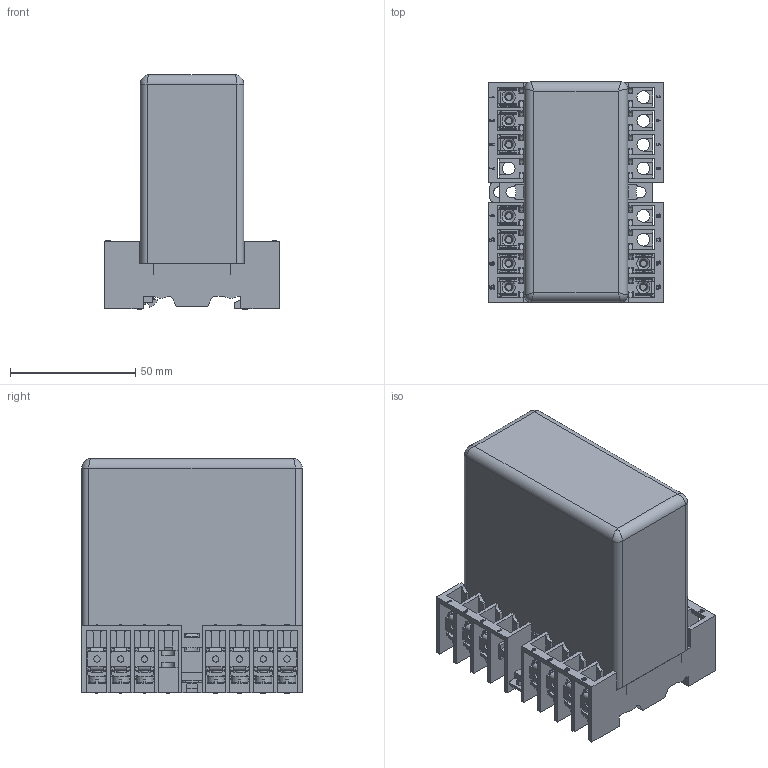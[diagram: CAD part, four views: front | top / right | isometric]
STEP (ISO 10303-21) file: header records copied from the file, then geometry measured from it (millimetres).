
FILE_DESCRIPTION(('STEP AP214'), '1');
FILE_NAME('ÐÑÍ13-4 ç.ï', '', ('UNSPECIFIED'), ('UNSPECIFIED'), 'ASCON STEP Converter 1.3', 'ASCON Math Kernel', '');
FILE_SCHEMA(('AUTOMOTIVE_DESIGN { 1 0 10303 214 3 1 1}'));
Length unit declared in the file: millimetre
Bounding box: 70 x 88.1 x 93.9 mm (x, y, z)
Volume: 96719.2 mm3; surface area: 93231 mm2
Topology: 13 solids, 13 shells, 5788 faces, 16041 edges, 10401 vertices
Faces by surface type: plane 4262, cylinder 1417, torus 79, cone 22, bspline 8
Full cylindrical faces by diameter (mm): 0.8 x7, 1.2 x2, 1.7 x2, 2.5 x11, 2.7 x2, 2.917 x2, 3.25 x9, 3.3 x27, 3.4 x2, 4 x2, 4.2 x11, 4.4 x2, 5 x2, 5.1 x16, 8 x2
Entity records: 235395 total; most frequent: CARTESIAN_POINT 39538, ORIENTED_EDGE 31736, DIRECTION 30073, EDGE_CURVE 15868, LINE 12101, VECTOR 12101, VERTEX_POINT 10401, AXIS2_PLACEMENT_3D 8986
